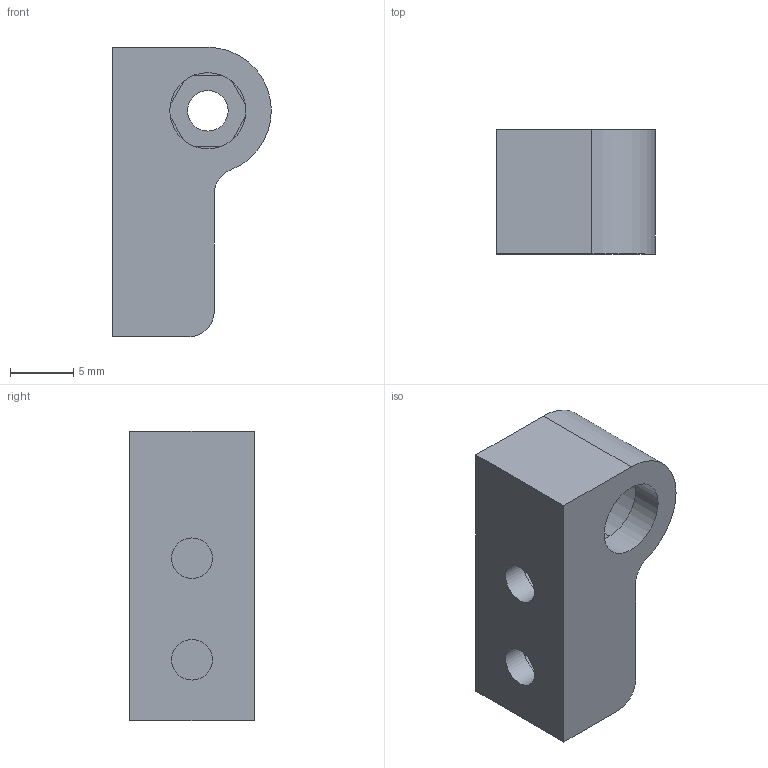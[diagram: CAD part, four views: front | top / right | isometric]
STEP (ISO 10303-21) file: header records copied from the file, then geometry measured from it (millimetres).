
FILE_DESCRIPTION(/* description */ (''),/* implementation_level */ '2;1');
FILE_NAME(/* name */ '3-05-2 Top wishbone mount left TPU.step',/* time_stamp */ '2025-05-10T22:03:46+02:00',/* author */ (''),/* organization */ (''),/* preprocessor_version */ 'ST-DEVELOPER v20.1',/* originating_system */ 'Autodesk Translation Framework v14.4.0.0',/* authorisation */ '');
FILE_SCHEMA (('AUTOMOTIVE_DESIGN { 1 0 10303 214 3 1 1 }'));
Length unit declared in the file: millimetre
Products named in the file (1): 3-05-2 Top wishbone mount left TPU
Bounding box: 12.5 x 9.8 x 22.8 mm (x, y, z)
Volume: 1588.3 mm3; surface area: 1503.2 mm2
Topology: 1 solids, 1 shells, 37 faces, 89 edges, 59 vertices
Faces by surface type: plane 27, cylinder 9, cone 1
Full cylindrical faces by diameter (mm): 3.2 x5, 6 x1
Entity records: 1126 total; most frequent: CARTESIAN_POINT 186, DIRECTION 184, ORIENTED_EDGE 178, EDGE_CURVE 89, LINE 70, VECTOR 70, VERTEX_POINT 59, AXIS2_PLACEMENT_3D 57
